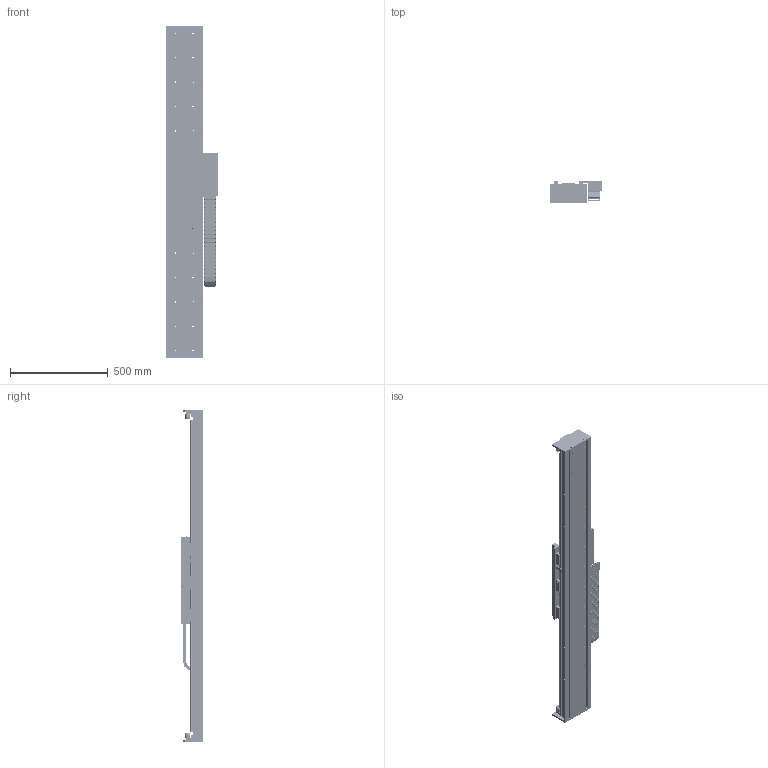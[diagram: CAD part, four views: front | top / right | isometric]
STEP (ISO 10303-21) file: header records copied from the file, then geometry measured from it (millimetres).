
FILE_DESCRIPTION (( 'STEP AP203' ), '1' );
FILE_NAME ('STF50380H-xC1B-Axx.STEP', '2007-10-29T14:59:20', ( 'Yaskawa' ), ( 'Yaskawa' ), 'SwSTEP 2.0', 'SolidWorks 2007', '' );
FILE_SCHEMA (( 'CONFIG_CONTROL_DESIGN' ));
Products named in the file (60): STF50-007 End Stop; Large Bumper; SSR20W Block; STF50-003 Renishaw Encoder Bracket; STCM-001-R2 Cable Bracket; STCM-002-R2 Cable Assembly Front; Serial Converter; B18.3.1M - 5 x 0.8 x 12 Hex SHCS -- 12NHX_B18.3.1M - 5 x 0.8 x 12 Hex SHCS -- 12NHX; 07.50.038.0_20; B18.3.1M - 6 x 1.0 x 25 Hex SHCS -- 25NHX_B18.3.1M - 6 x 1.0 x 25 Hex SHCS -- 25NHX; STF50200J; 07.50.038.0_24; 07.50.038.0_25; 07.50.038.0_35; 07.50.038.0_34; 07.50.038.0_36; 07.50.038.0_41; 07.50.038.0_42; 07.50.038.0_32; 07.50.038.0_31; STF50380H-xC1B-Axx; STF50200 Base_STF50BM-009; SGLFM-50675AC; SGLFM-50945AC; STF50 Large End Stop; SSR20 Rail 820_1600; STF50-380 Complete Carriage; STF50-001B F50-380 Carriage; SGLFW-50A380AP; RGH22B; STF50-004 Flag; STF50-0028-R1 F50-380 Carriage Horn; STF50-005-R2 Cable Router; STCM-R1; STCM-003 Cable Assembly Bottom; STCM-004 Cable Assembly Side; STCM-005-R1 Cable Assembly Cover; STCM-006-R1 Upper E-chain Bracket; B18.3.4M - 3 x 0.5 x 12 SBHCS --N_B18.3.4M - 3 x 0.5 x 12 SBHCS --N; B18.3.5M - 3 x 0.5 x 12 Socket FCHS  -- 12N_B18.3.5M - 3 x 0.5 x 12 Socket FCHS  -- 12N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
Assembly tree (141 placements, depth 4):
  STF50380H-xC1B-Axx
    STF50 Large End Stop  x4
      STF50-007 End Stop
      Large Bumper
    SSR20 Rail 820_1600  x2
    STF50-380 Complete Carriage
      B18.3.1M - 5 x 0.8 x 12 Hex SHCS -- 12NHX_B18.3.1M - 5 x 0.8 x 12 Hex SHCS -- 12NHX  x34
      B18.3.5M - 3 x 0.5 x 12 Socket FCHS  -- 12N_B18.3.5M - 3 x 0.5 x 12 Socket FCHS  -- 12N  x6
      SSR20W Block  x6
      B18.3.1M - 6 x 1.0 x 25 Hex SHCS -- 25NHX_B18.3.1M - 6 x 1.0 x 25 Hex SHCS -- 25NHX  x10
      STF50-005-R2 Cable Router
      B18.3.4M - 3 x 0.5 x 12 SBHCS --N_B18.3.4M - 3 x 0.5 x 12 SBHCS --N  x3
      STF50-0028-R1 F50-380 Carriage Horn  x2
      STF50-001B F50-380 Carriage
      SGLFW-50A380AP
      STF50-004 Flag
      RGH22B
      STCM-R1
        STCM-002-R2 Cable Assembly Front
        STCM-001-R2 Cable Bracket
        STCM-003 Cable Assembly Bottom
        STCM-005-R1 Cable Assembly Cover
        Serial Converter
        STCM-004 Cable Assembly Side
        STCM-006-R1 Upper E-chain Bracket
      STF50-003 Renishaw Encoder Bracket
    STF50200J
      07.50.038.0_31  x11
      07.50.038.0_24
      07.50.038.0_28
      07.50.038.0_26
      07.50.038.0_32  x13
      07.50.038.0_23
      07.50.038.0_40
      07.50.038.0_25
      07.50.038.0_42
      07.50.038.0_37
      07.50.038.0_43
      07.50.038.0_45
      07.50.038.0_44
      07.50.038.0_35
      07.50.038.0_34
      07.50.038.0_21
      07.50.038.0_38
      07.50.038.0_29
      07.50.038.0_22
      07.50.038.0_20
      07.50.038.0_33
      07.50.038.0_30
      07.50.038.0_46
      07.50.038.0_39
      07.50.038.0_47
      07.50.038.0_27
      07.50.038.0_36
      07.50.038.0_41
    STF50-006 Endplate  x2
    SGLFM-50675AC
    SGLFM-50945AC
    STCM-007 Lower E-Chain Bracket
    STF50200 Base_STF50BM-009
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Bounding box: 269.74 x 115.5 x 1699.05 mm (x, y, z)
Volume: 14021134.8 mm3; surface area: 3027089.4 mm2
Topology: 188 solids, 188 shells, 8201 faces, 20941 edges, 13189 vertices
Faces by surface type: plane 4220, cylinder 3049, cone 808, torus 110, bspline 8, sphere 6
Entity records: 150842 total; most frequent: DIRECTION 25452, CARTESIAN_POINT 24683, ORIENTED_EDGE 23464, EDGE_CURVE 11732, AXIS2_PLACEMENT_3D 8975, VERTEX_POINT 7680, VECTOR 7502, LINE 7502
